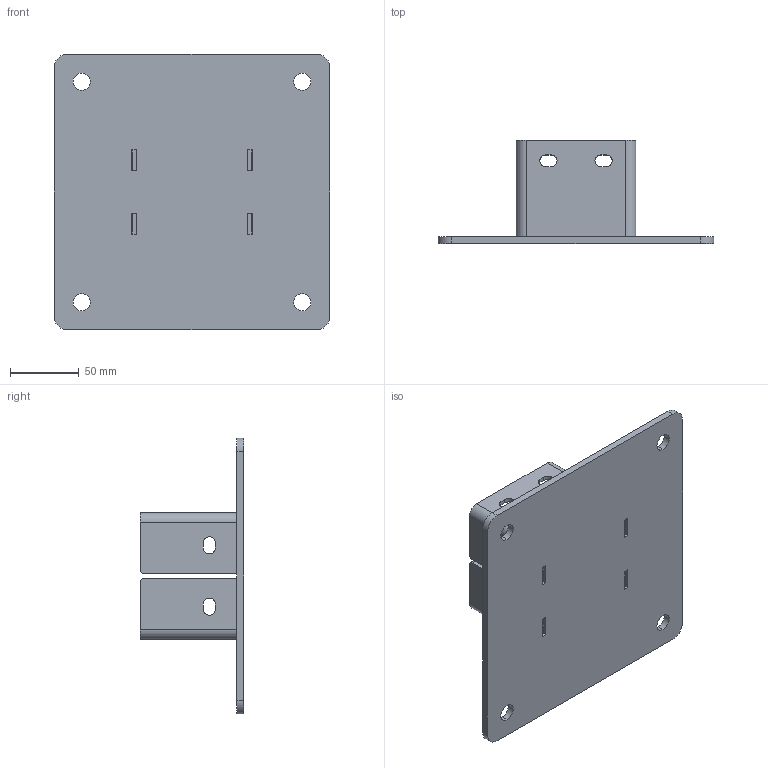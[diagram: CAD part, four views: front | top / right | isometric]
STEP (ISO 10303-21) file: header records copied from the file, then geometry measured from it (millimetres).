
FILE_DESCRIPTION (( 'STEP AP214' ), '1' );
FILE_NAME ('1G.2020.FPG.STEP', '2025-06-12T21:02:05', ( '' ), ( '' ), 'SwSTEP 2.0', 'SolidWorks 2023', '' );
FILE_SCHEMA (( 'AUTOMOTIVE_DESIGN' ));
Length unit declared in the file: millimetre
Products named in the file (3): 1G.2020.FPG Foot Pate; 1G.1520.FPG Upright; 1G.2020.FPG
Assembly tree (3 placements, depth 2):
  1G.2020.FPG
    1G.2020.FPG Foot Pate
    1G.1520.FPG Upright  x2
Bounding box: 200 x 75 x 200 mm (x, y, z)
Volume: 263679.3 mm3; surface area: 132680.4 mm2
Topology: 3 solids, 3 shells, 138 faces, 364 edges, 232 vertices
Faces by surface type: plane 90, cylinder 48
Entity records: 2810 total; most frequent: DIRECTION 474, CARTESIAN_POINT 470, ORIENTED_EDGE 460, EDGE_CURVE 230, VECTOR 170, LINE 170, AXIS2_PLACEMENT_3D 152, VERTEX_POINT 148
